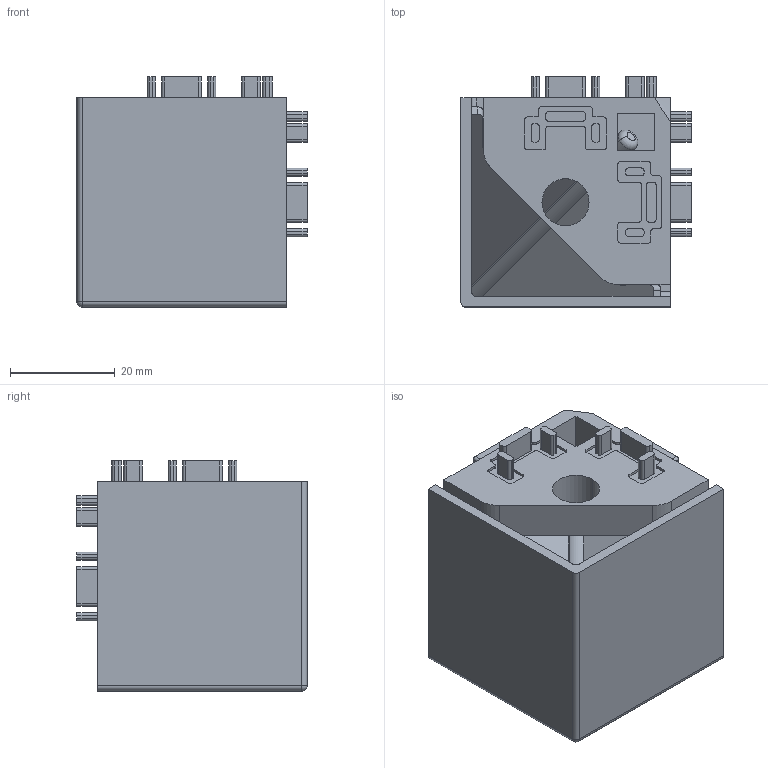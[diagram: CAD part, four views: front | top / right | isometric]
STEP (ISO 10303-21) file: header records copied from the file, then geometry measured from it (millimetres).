
FILE_DESCRIPTION (( 'STEP AP214' ), '1' );
FILE_NAME ('SNSD.30.53.04. 3-õ ñòîðîííèé êóáè÷åñêèé ñîåäèíèòåëü 40õ40_D, ïàç 10(C80).STEP', '2015-12-16T10:51:26', ( '' ), ( '' ), 'SwSTEP 2.0', 'SolidWorks 2014', '' );
FILE_SCHEMA (( 'AUTOMOTIVE_DESIGN' ));
Length unit declared in the file: millimetre
Products named in the file (5): SNSD.30.51.55. ﾎ魵瑙韃(E05)2ew; SNSD.30.51.55. Êðûøêà(E05)2ew; SNSD.30.53.04. 3-õ ñòîðîííèé êóáè÷åñêèé ñîåäèíèòåëü 40õ40_D, ïàç 10(C80); SNSD.30.51.55. ﾎ魵瑙韃(E05)2ew_00; SNSD.30.51.55. Êðûøêà(E05)2ew_00
Assembly tree (2 placements, depth 2):
  SNSD.30.51.55. ﾎ魵瑙韃(E05)2ew
  SNSD.30.51.55. Êðûøêà(E05)2ew
  SNSD.30.53.04. 3-õ ñòîðîííèé êóáè÷åñêèé ñîåäèíèòåëü 40õ40_D, ïàç 10(C80)
    SNSD.30.51.55. Êðûøêà(E05)2ew_00
    SNSD.30.51.55. ﾎ魵瑙韃(E05)2ew_00
Bounding box: 44 x 44 x 44 mm (x, y, z)
Volume: 27393.6 mm3; surface area: 19975.9 mm2
Topology: 2 solids, 2 shells, 397 faces, 1101 edges, 731 vertices
Faces by surface type: plane 214, cylinder 177, torus 4, sphere 1, cone 1
Entity records: 12934 total; most frequent: CARTESIAN_POINT 2291, DIRECTION 2254, ORIENTED_EDGE 2200, EDGE_CURVE 1100, AXIS2_PLACEMENT_3D 764, VERTEX_POINT 731, LINE 726, VECTOR 726
